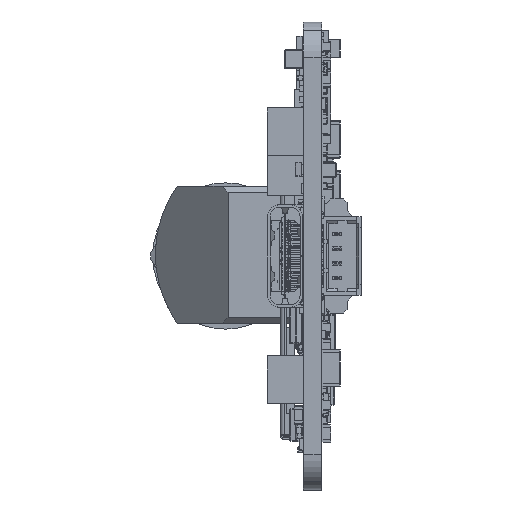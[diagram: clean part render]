
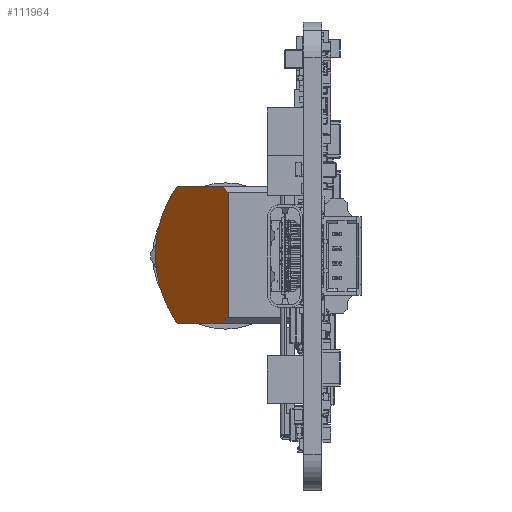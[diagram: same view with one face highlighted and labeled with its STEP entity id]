
A CAD part, left-side view. The second image highlights one B-rep face of the part: STEP entity #111964.
In plain terms, the highlighted planar face has unit normal (0.707, -0.707, 0).
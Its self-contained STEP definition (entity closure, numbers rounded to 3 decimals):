
#2107 = LINE ( 'NONE', #212890, #184178 ) ;
#8155 = VECTOR ( 'NONE', #28779, 1000. ) ;
#19134 = VERTEX_POINT ( 'NONE', #214633 ) ;
#24709 = LINE ( 'NONE', #213660, #8155 ) ;
#26086 = VERTEX_POINT ( 'NONE', #159411 ) ;
#28779 = DIRECTION ( 'NONE',  ( -0.707, -0.707, 0. ) ) ;
#34472 = VECTOR ( 'NONE', #165041, 1000. ) ;
#35273 = VERTEX_POINT ( 'NONE', #53234 ) ;
#37163 = CARTESIAN_POINT ( 'NONE',  ( 49.556, 12.65, -5.748 ) ) ;
#41159 = CARTESIAN_POINT ( 'NONE',  ( 43.856, 6.95, 5.952 ) ) ;
#47077 = ORIENTED_EDGE ( 'NONE', *, *, #256600, .T. ) ;
#53234 = CARTESIAN_POINT ( 'NONE',  ( 43.356, 6.45, -5.248 ) ) ;
#58408 = EDGE_CURVE ( 'NONE', #19134, #132376, #220345, .T. ) ;
#96343 = EDGE_CURVE ( 'NONE', #104855, #212264, #24709, .T. ) ;
#97170 = VECTOR ( 'NONE', #114998, 1000. ) ;
#98346 = AXIS2_PLACEMENT_3D ( 'NONE', #37163, #100226, #104280 ) ;
#100226 = DIRECTION ( 'NONE',  ( 0.707, -0.707, 0. ) ) ;
#104280 = DIRECTION ( 'NONE',  ( 0., 0., 1. ) ) ;
#104855 = VERTEX_POINT ( 'NONE', #135006 ) ;
#111964 = ADVANCED_FACE ( 'NONE', ( #226031 ), #205549, .T. ) ;
#112790 = CARTESIAN_POINT ( 'NONE',  ( 43.356, 6.45, -5.748 ) ) ;
#114998 = DIRECTION ( 'NONE',  ( 0.707, 0.707, 0. ) ) ;
#124832 = CARTESIAN_POINT ( 'NONE',  ( 50.26, 13.354, -2.119 ) ) ;
#127447 = ORIENTED_EDGE ( 'NONE', *, *, #96343, .T. ) ;
#129134 = ORIENTED_EDGE ( 'NONE', *, *, #58408, .T. ) ;
#132376 = VERTEX_POINT ( 'NONE', #211872 ) ;
#134072 = VECTOR ( 'NONE', #196297, 1000. ) ;
#135006 = CARTESIAN_POINT ( 'NONE',  ( 47.701, 10.794, 5.952 ) ) ;
#155819 = EDGE_CURVE ( 'NONE', #35273, #19134, #2107, .T. ) ;
#159411 = CARTESIAN_POINT ( 'NONE',  ( 43.356, 6.45, 5.452 ) ) ;
#165041 = DIRECTION ( 'NONE',  ( -0.577, -0.577, -0.577 ) ) ;
#166744 = ORIENTED_EDGE ( 'NONE', *, *, #168300, .T. ) ;
#168300 = EDGE_CURVE ( 'NONE', #132376, #104855, #254320, .T. ) ;
#171327 = CARTESIAN_POINT ( 'NONE',  ( 50.26, 13.354, 2.323 ) ) ;
#178492 = LINE ( 'NONE', #112790, #134072 ) ;
#179099 = ORIENTED_EDGE ( 'NONE', *, *, #191232, .T. ) ;
#184178 = VECTOR ( 'NONE', #214222, 1000. ) ;
#188378 = CARTESIAN_POINT ( 'NONE',  ( 43.856, 6.95, 5.952 ) ) ;
#191232 = EDGE_CURVE ( 'NONE', #26086, #35273, #178492, .T. ) ;
#196297 = DIRECTION ( 'NONE',  ( 0., 0., -1. ) ) ;
#205549 = PLANE ( 'NONE',  #98346 ) ;
#208289 = CARTESIAN_POINT ( 'NONE',  ( 47.701, 10.794, 5.952 ) ) ;
#208803 = LINE ( 'NONE', #188378, #34472 ) ;
#211872 = CARTESIAN_POINT ( 'NONE',  ( 47.701, 10.794, -5.748 ) ) ;
#212264 = VERTEX_POINT ( 'NONE', #41159 ) ;
#212890 = CARTESIAN_POINT ( 'NONE',  ( 43.356, 6.45, -5.248 ) ) ;
#212948 = ORIENTED_EDGE ( 'NONE', *, *, #155819, .T. ) ;
#213660 = CARTESIAN_POINT ( 'NONE',  ( 49.556, 12.65, 5.952 ) ) ;
#214222 = DIRECTION ( 'NONE',  ( 0.577, 0.577, -0.577 ) ) ;
#214633 = CARTESIAN_POINT ( 'NONE',  ( 43.856, 6.95, -5.748 ) ) ;
#218991 = CARTESIAN_POINT ( 'NONE',  ( 49.556, 12.65, -5.748 ) ) ;
#220345 = LINE ( 'NONE', #218991, #97170 ) ;
#226031 = FACE_OUTER_BOUND ( 'NONE', #227214, .T. ) ;
#227214 = EDGE_LOOP ( 'NONE', ( #179099, #212948, #129134, #166744, #127447, #47077 ) ) ;
#252082 = CARTESIAN_POINT ( 'NONE',  ( 47.701, 10.794, -5.748 ) ) ;
#254320 =( BOUNDED_CURVE ( )  B_SPLINE_CURVE ( 3, ( #252082, #124832, #171327, #208289 ),
 .UNSPECIFIED., .F., .F. ) 
 B_SPLINE_CURVE_WITH_KNOTS ( ( 4, 4 ),
 ( 5.669, 6.898 ),
 .UNSPECIFIED. ) 
 CURVE ( )  GEOMETRIC_REPRESENTATION_ITEM ( )  RATIONAL_B_SPLINE_CURVE ( ( 1., 0.878, 0.878, 1. ) ) 
 REPRESENTATION_ITEM ( '' )  );
#256600 = EDGE_CURVE ( 'NONE', #212264, #26086, #208803, .T. ) ;
